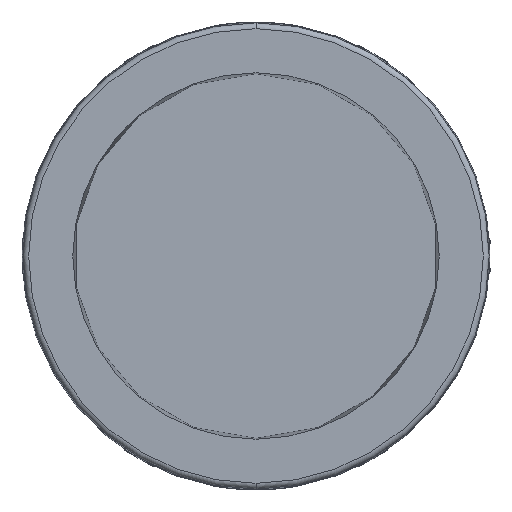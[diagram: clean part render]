
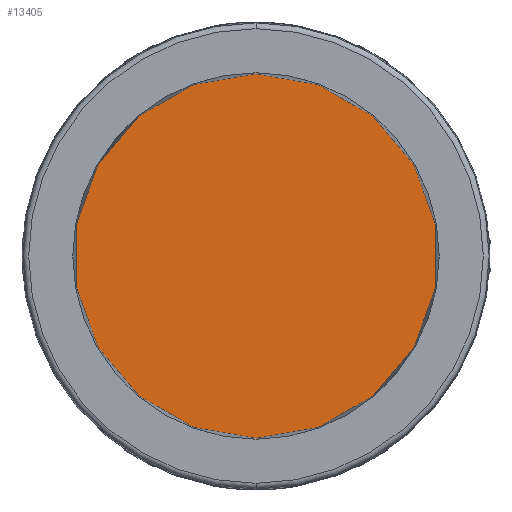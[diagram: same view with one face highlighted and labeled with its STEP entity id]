
A CAD part, front view. The second image highlights one B-rep face of the part: STEP entity #13405.
In plain terms, the highlighted planar face has unit normal (0, -1, 0).
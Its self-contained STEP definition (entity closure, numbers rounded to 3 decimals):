
#823 = EDGE_CURVE ( 'NONE', #10739, #5264, #9445, .T. ) ;
#1501 = ORIENTED_EDGE ( 'NONE', *, *, #823, .T. ) ;
#4666 = CARTESIAN_POINT ( 'NONE',  ( 0., 9., 3.128 ) ) ;
#5264 = VERTEX_POINT ( 'NONE', #14394 ) ;
#7099 = FACE_OUTER_BOUND ( 'NONE', #13148, .T. ) ;
#7100 = PLANE ( 'NONE',  #7101 ) ;
#7101 = AXIS2_PLACEMENT_3D ( 'NONE', #7102, #7103, #7104 ) ;
#7102 = CARTESIAN_POINT ( 'NONE',  ( 0., 9., 0. ) ) ;
#7103 = DIRECTION ( 'NONE',  ( 0., -1., 0. ) ) ;
#7104 = DIRECTION ( 'NONE',  ( 0., 0., -1. ) ) ;
#8253 = CIRCLE ( 'NONE', #8254, 3.128 ) ;
#8254 = AXIS2_PLACEMENT_3D ( 'NONE', #8255, #8256, #8257 ) ;
#8255 = CARTESIAN_POINT ( 'NONE',  ( 0., 9., 0. ) ) ;
#8256 = DIRECTION ( 'NONE',  ( 0., -1., 0. ) ) ;
#8257 = DIRECTION ( 'NONE',  ( 0., 0., -1. ) ) ;
#9445 = CIRCLE ( 'NONE', #9446, 3.128 ) ;
#9446 = AXIS2_PLACEMENT_3D ( 'NONE', #9447, #9448, #9449 ) ;
#9447 = CARTESIAN_POINT ( 'NONE',  ( 0., 9., 0. ) ) ;
#9448 = DIRECTION ( 'NONE',  ( 0., -1., 0. ) ) ;
#9449 = DIRECTION ( 'NONE',  ( 0., 0., -1. ) ) ;
#10739 = VERTEX_POINT ( 'NONE', #4666 ) ;
#12596 = ORIENTED_EDGE ( 'NONE', *, *, #14913, .T. ) ;
#13148 = EDGE_LOOP ( 'NONE', ( #12596, #1501 ) ) ;
#13405 = ADVANCED_FACE ( 'NONE', ( #7099 ), #7100, .T. ) ;
#14394 = CARTESIAN_POINT ( 'NONE',  ( 0., 9., -3.128 ) ) ;
#14913 = EDGE_CURVE ( 'NONE', #5264, #10739, #8253, .T. ) ;
